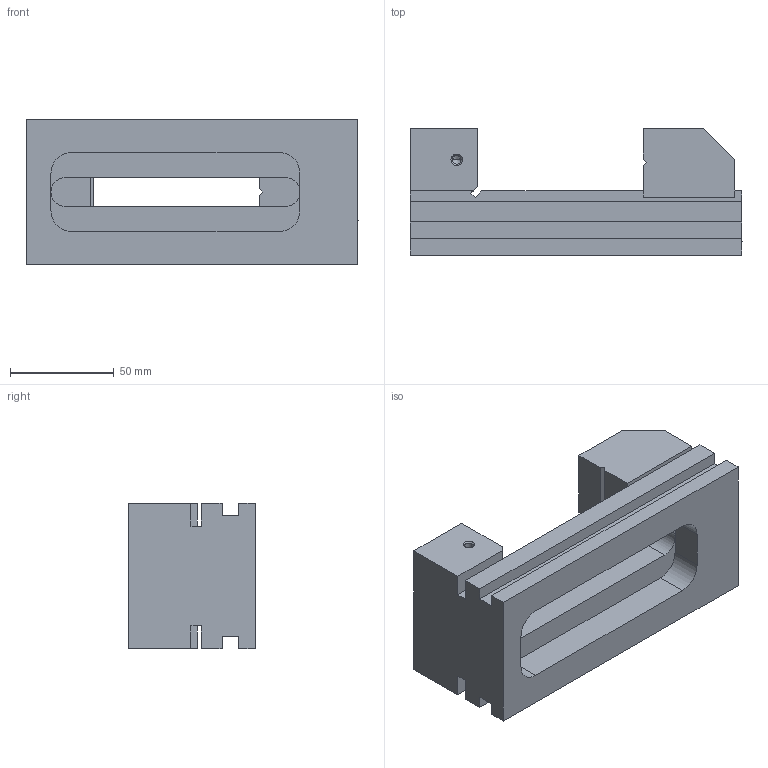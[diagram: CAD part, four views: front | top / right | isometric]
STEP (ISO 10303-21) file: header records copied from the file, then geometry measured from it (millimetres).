
FILE_DESCRIPTION (( 'STEP AP214' ), '1' );
FILE_NAME ('32548 70mm TOOLMAKER VISE.STEP', '2016-06-01T14:44:14', ( '' ), ( '' ), 'SwSTEP 2.0', 'SolidWorks 2014', '' );
FILE_SCHEMA (( 'AUTOMOTIVE_DESIGN' ));
Length unit declared in the file: millimetre
Products named in the file (1): 32548 70mm TOOLMAKER VISE
Bounding box: 160 x 61 x 70 mm (x, y, z)
Volume: 376105.4 mm3; surface area: 62688.8 mm2
Topology: 1 solids, 1 shells, 369 faces, 999 edges, 659 vertices
Faces by surface type: plane 243, bspline 108, cylinder 10, cone 8
Entity records: 20870 total; most frequent: CARTESIAN_POINT 9124, ORIENTED_EDGE 1990, DIRECTION 1329, EDGE_CURVE 995, LINE 753, VECTOR 753, VERTEX_POINT 659, EDGE_LOOP 402
